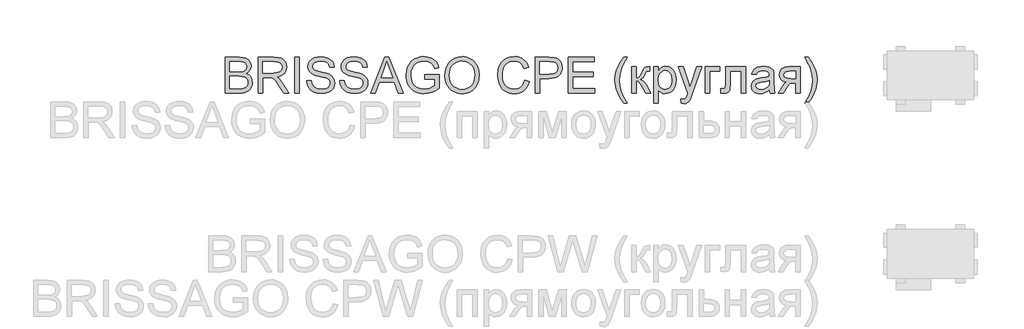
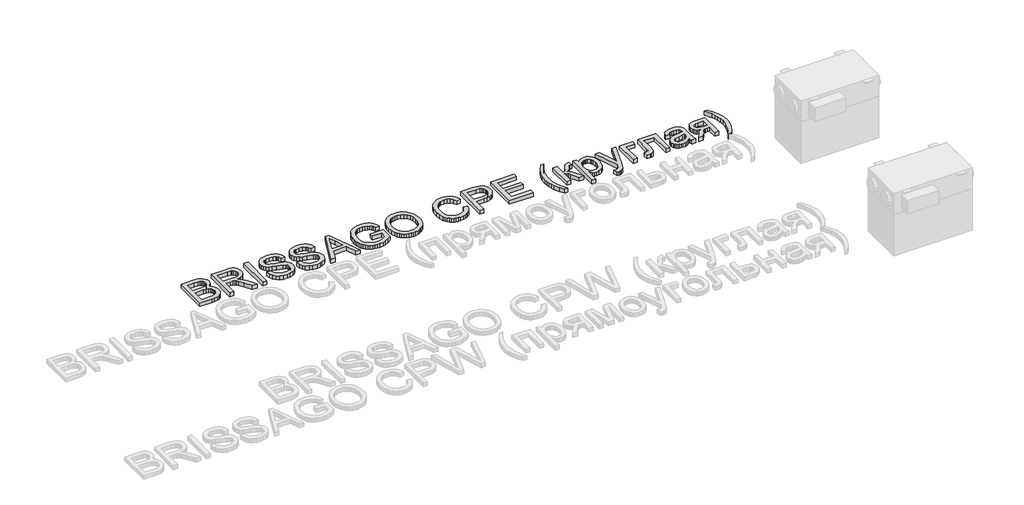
# One storey, part 20 of 28: 1 proxy.
"""IFC4 building model written with IfcOpenShell, lengths in millimetres."""

import ifcopenshell
import ifcopenshell.guid

model = None  # the IFC model being written
_history = None  # IfcOwnerHistory: only IFC2X3 demands one
_inside = {}  # id of a spatial element -> (the spatial element, [elements in it])
_under = {}  # id of a project, library or spatial element -> (it, [spatial elements below it])
_declared = {}  # id of a project -> (the project, [libraries it declares])
_typed = {}  # id of a type object -> (the type object, [elements of that type])
_made_of = {}  # id of a material, layer set ... -> (it, [elements and type objects made of it])


def new_model(schema):
    """Start an empty IFC model of exactly this schema.

    Asked for "IFC4X3", IfcOpenShell would pick the latest addendum, in which some entities
    have other attributes; the version numbers below select the first issue.
    IFC2X3 requires an IfcOwnerHistory on every rooted entity: one is made here for all.
    """
    global model, _history
    if schema == "IFC4X3":
        model = ifcopenshell.file(schema_version=(4, 3, 0, 0))
    else:
        model = ifcopenshell.file(schema=schema)
    _inside.clear()
    _under.clear()
    _declared.clear()
    _typed.clear()
    _made_of.clear()
    _history = None
    if model.schema == "IFC2X3":
        org = make("IfcOrganization", Name="unknown")
        user = make(
            "IfcPersonAndOrganization",
            ThePerson=make("IfcPerson", FamilyName="unknown"),
            TheOrganization=org,
        )
        app = make(
            "IfcApplication",
            ApplicationDeveloper=org,
            Version="unknown",
            ApplicationFullName="unknown",
            ApplicationIdentifier="unknown",
        )
        _history = make(
            "IfcOwnerHistory",
            OwningUser=user,
            OwningApplication=app,
            ChangeAction="ADDED",
            CreationDate=0,
        )
    return model


def make(cls, **values):
    """One entity of the class cls with the attributes given. An attribute that is None is left unset."""
    return model.create_entity(
        cls, **{name: value for name, value in values.items() if value is not None}
    )


def rooted(cls, **values):
    """An entity with a GlobalId (a new one), such as an element, a storey or a relation."""
    return make(cls, GlobalId=ifcopenshell.guid.new(), OwnerHistory=_history, **values)


def si_unit(unit_type, name, prefix=None):
    """IfcSIUnit, for example si_unit("LENGTHUNIT", "METRE", prefix="MILLI")."""
    return make("IfcSIUnit", UnitType=unit_type, Prefix=prefix, Name=name)


def assignment(units):
    """IfcUnitAssignment: the units of a project."""
    return None if units is None else make("IfcUnitAssignment", Units=units)


def point(xyz):
    """IfcCartesianPoint."""
    return None if xyz is None else make("IfcCartesianPoint", Coordinates=xyz)


def direction(xyz):
    """IfcDirection."""
    return None if xyz is None else make("IfcDirection", DirectionRatios=xyz)


def frame(location, z_axis=None, x_axis=None):
    """IfcAxis2Placement3D, a coordinate frame: its origin and axes. An axis left out is left unset."""
    return make(
        "IfcAxis2Placement3D",
        Location=point(location),
        Axis=direction(z_axis),
        RefDirection=direction(x_axis),
    )


def origin():
    """The frame at (0, 0, 0) with its axes left unset."""
    return frame((0.0, 0.0, 0.0))


def origin_with_axes():
    """The frame at (0, 0, 0) with the z axis (0, 0, 1) and the x axis (1, 0, 0) written out."""
    return frame((0.0, 0.0, 0.0), z_axis=(0.0, 0.0, 1.0), x_axis=(1.0, 0.0, 0.0))


def place(relative_to, where):
    """IfcLocalPlacement: puts the frame where relative to a parent placement (None: the world)."""
    return make(
        "IfcLocalPlacement", PlacementRelTo=relative_to, RelativePlacement=where
    )


def context(
    kind, dimensions, precision=None, world=None, true_north=None, identifier=None
):
    """IfcGeometricRepresentationContext, for example the 3D "Model" context."""
    return make(
        "IfcGeometricRepresentationContext",
        ContextIdentifier=identifier,
        ContextType=kind,
        CoordinateSpaceDimension=dimensions,
        Precision=precision,
        WorldCoordinateSystem=world,
        TrueNorth=true_north,
    )


def project(units=None, contexts=None):
    """IfcProject with its units and contexts."""
    return rooted(
        "IfcProject",
        Name="project",
        RepresentationContexts=contexts,
        UnitsInContext=assignment(units),
    )


def spatial(cls, under=None, at=None, **own):
    """A site, building, storey or space (cls), placed at a placement, below another one or the project."""
    s = rooted(cls, ObjectPlacement=at, **own)
    if under is not None:
        _under.setdefault(under.id(), (under, []))[1].append(s)
    return s


def polyline(points):
    """IfcPolyline through the points."""
    return make("IfcPolyline", Points=[point(p) for p in points])


def outline(outer, holes=None, kind="AREA"):
    """IfcArbitraryClosedProfileDef: a profile drawn as a closed curve; with holes, ...WithVoids."""
    if holes is None:
        return make("IfcArbitraryClosedProfileDef", ProfileType=kind, OuterCurve=outer)
    return make(
        "IfcArbitraryProfileDefWithVoids",
        ProfileType=kind,
        OuterCurve=outer,
        InnerCurves=holes,
    )


def extrude(swept, where, along, depth):
    """IfcExtrudedAreaSolid: the profile swept, set in the frame where, extruded along a direction by depth."""
    return make(
        "IfcExtrudedAreaSolid",
        SweptArea=swept,
        Position=where,
        ExtrudedDirection=direction(along),
        Depth=depth,
    )


def shape(context_of_items, identifier, shape_type, items):
    """IfcShapeRepresentation: the items that make up one representation, for example the "Body"."""
    return make(
        "IfcShapeRepresentation",
        ContextOfItems=context_of_items,
        RepresentationIdentifier=identifier,
        RepresentationType=shape_type,
        Items=items,
    )


def made_of(thing, what):
    """Note that an element or type object is made of a material, layer set ...; save() writes the relation."""
    if what is not None:
        _made_of.setdefault(what.id(), (what, []))[1].append(thing)
    return thing


def element(
    cls,
    number,
    at=None,
    inside=None,
    cuts=None,
    type_object=None,
    material=None,
    context=None,
    identifier="Body",
    shape_type=None,
    held_by="IfcProductDefinitionShape",
    body=None,
    shapes=None,
    **own,
):
    """One element of the class cls, such as IfcWall. Its Tag is "e" and its number.

    at: its placement. inside: the storey or other place that contains it. cuts: it is an
    opening in that element (IfcRelVoidsElement). A single representation is given by context,
    identifier, shape_type and body (its items); several are given by shapes. held_by: the class
    of the entity that holds the representations. save() writes the other relations.
    """
    e = rooted(cls, Tag="e%d" % number, ObjectPlacement=at, **own)
    if body is not None:
        shapes = [shape(context, identifier, shape_type, body)]
    if shapes is not None:
        e.Representation = make(held_by, Representations=shapes)
    if inside is not None:
        _inside.setdefault(inside.id(), (inside, []))[1].append(e)
    if cuts is not None:
        rooted(
            "IfcRelVoidsElement", RelatingBuildingElement=cuts, RelatedOpeningElement=e
        )
    if type_object is not None:
        _typed.setdefault(type_object.id(), (type_object, []))[1].append(e)
    return made_of(e, material)


def aggregate(whole, parts):
    """IfcRelAggregates: a whole, such as a stair, and the parts it consists of."""
    return rooted("IfcRelAggregates", RelatingObject=whole, RelatedObjects=parts)


def save(model, path):
    """Write the relations noted so far, then the file.

    IfcRelAggregates (storeys below a building ...), IfcRelContainedInSpatialStructure (elements
    in a storey), IfcRelDefinesByType, IfcRelAssociatesMaterial and IfcRelDeclares: one each for
    every whole, place, type object, material and project.
    """
    for whole, parts in _under.values():
        aggregate(whole, parts)
    for where, things in _inside.values():
        rooted(
            "IfcRelContainedInSpatialStructure",
            RelatedElements=things,
            RelatingStructure=where,
        )
    for kind, things in _typed.values():
        rooted("IfcRelDefinesByType", RelatedObjects=things, RelatingType=kind)
    for what, things in _made_of.values():
        rooted("IfcRelAssociatesMaterial", RelatedObjects=things, RelatingMaterial=what)
    for by, libraries in _declared.values():
        rooted("IfcRelDeclares", RelatingContext=by, RelatedDefinitions=libraries)
    model.write(path)


model = new_model("IFC4")

# Units and contexts
model_context = context("Model", 3, world=origin())
ifc_project = project(units=[si_unit("LENGTHUNIT", "METRE", prefix="MILLI")], contexts=[model_context])

# Site, building, storey
site = spatial("IfcSite", under=ifc_project)
building = spatial("IfcBuilding", under=site)
storey = spatial("IfcBuildingStorey", under=building, Name="Уровень 1", Elevation=0.0)

# Proxy
placement = place(None, origin())
element("IfcBuildingElementProxy", 1, Name="400 мм Arial", ObjectType="400 мм Arial", at=placement, inside=storey, context=model_context, shape_type="SweptSolid", body=[
    extrude(outline(polyline([(-28564.9960221, 10271.3067858), (-28564.9960221, 10673.1320263), (-28411.6628065, 10673.1320263), (-28369.4912671, 10670.1767077), (-28336.5658286, 10661.3107516), (-28311.3291237, 10646.3134289), (-28292.2237854, 10624.9640104), (-28280.1940442, 10599.8499329), (-28276.1841304, 10573.558633), (-28279.556382, 10549.3642604), (-28289.6731369, 10526.6168904), (-28306.6079714, 10506.7144745), (-28330.434462, 10491.0549642), (-28301.9726583, 10476.1925316), (-28280.9420709, 10453.5800516), (-28267.9558365, 10424.7135777), (-28263.6270917, 10391.0891634), (-28266.5824103, 10363.0688181), (-28275.4483664, 10337.0840865), (-28288.6798555, 10314.9866413), (-28304.7317732, 10298.6281553), (-28324.3889345, 10286.782355), (-28348.4361543, 10278.2229673), (-28377.6582474, 10273.0358311), (-28412.8400289, 10271.3067858), (-28564.9960221, 10271.3067858)]), holes=[polyline([(-28514.767867, 10509.8905224), (-28423.0426229, 10509.8905224), (-28369.4790044, 10514.2070044), (-28350.7292854, 10521.6504835), (-28337.2525416, 10532.7973079), (-28329.1223495, 10547.4757995), (-28326.4122855, 10565.51428), (-28328.9384085, 10583.025463), (-28336.5167776, 10598.2803031), (-28348.8040363, 10610.187417), (-28365.4568279, 10617.6554215), (-28391.0123639, 10621.5917588), (-28430.0078553, 10622.9038713), (-28514.767867, 10622.9038713), (-28514.767867, 10509.8905224)]), polyline([(-28514.767867, 10321.5349408), (-28411.7609084, 10321.5349408), (-28374.4821995, 10323.4969781), (-28342.9424498, 10334.4353361), (-28331.3664297, 10343.8653779), (-28322.0467525, 10356.7535105), (-28315.9031232, 10372.5233854), (-28313.8552467, 10390.5986541), (-28316.2587424, 10411.5924532), (-28323.4692295, 10429.6431965), (-28336.0630565, 10443.7576024), (-28354.6165718, 10452.9423895), (-28380.895609, 10457.9823728), (-28416.6660016, 10459.6623673), (-28514.767867, 10459.6623673), (-28514.767867, 10321.5349408)])]), origin_with_axes(), (0.0, 0.0, 1.0), 50.0),
    extrude(outline(polyline([(-28194.5633784, 10271.3067858), (-28194.5633784, 10673.1320263), (-28021.413586, 10673.1320263), (-27974.8765136, 10670.4219623), (-27941.0191074, 10662.2917702), (-27916.2729118, 10647.2821848), (-27897.0694717, 10623.9339409), (-27884.7454248, 10594.9816278), (-27880.6374092, 10563.1598353), (-27882.3388634, 10542.5216553), (-27887.4432261, 10523.5757326), (-27895.9504973, 10506.322067), (-27907.8606769, 10490.7606586), (-27923.3270491, 10477.3881481), (-27942.5028981, 10466.7011761), (-27965.3882238, 10458.6997427), (-27991.9830264, 10453.3838479), (-27963.4353836, 10431.8995394), (-27922.7231095, 10380.1998563), (-27855.7195354, 10271.3067858), (-27914.0901453, 10271.3067858), (-27966.3784396, 10354.5952695), (-28004.1476577, 10409.7285178), (-28018.1884872, 10425.804961), (-28030.6842123, 10435.7745631), (-28054.5720165, 10445.3394949), (-28083.7082705, 10447.1053285), (-28144.3352234, 10447.1053285), (-28144.3352234, 10271.3067858), (-28194.5633784, 10271.3067858)]), holes=[polyline([(-28144.3352234, 10497.3334836), (-28031.9104856, 10497.3334836), (-27999.6227092, 10499.1115799), (-27974.5699453, 10504.4458688), (-27955.7098617, 10513.6919696), (-27942.000126, 10527.2055016), (-27933.6492047, 10543.5517249), (-27930.8655643, 10561.2958998), (-27936.1753277, 10585.7968407), (-27952.1046181, 10605.5398411), (-27964.2661838, 10613.1366043), (-27979.5118268, 10618.5628637), (-28019.255345, 10622.9038713), (-28144.3352234, 10622.9038713), (-28144.3352234, 10497.3334836)])]), origin_with_axes(), (0.0, 0.0, 1.0), 50.0),
    extrude(outline(polyline([(-27786.4596184, 10271.3067858), (-27786.4596184, 10673.1320263), (-27736.2314634, 10673.1320263), (-27736.2314634, 10271.3067858), (-27786.4596184, 10271.3067858)])), origin_with_axes(), (0.0, 0.0, 1.0), 50.0),
    extrude(outline(polyline([(-27654.6107114, 10409.4342122), (-27604.3825563, 10409.4342122), (-27598.6190717, 10381.5610197), (-27588.1957485, 10359.1570062), (-27571.9353643, 10341.3760431), (-27548.6606968, 10327.3720018), (-27520.2111558, 10318.2853165), (-27488.4261514, 10315.2564214), (-27460.4425943, 10317.5495525), (-27435.9416534, 10324.4289459), (-27416.0882884, 10335.3182529), (-27402.047459, 10349.6411253), (-27393.6965377, 10366.0854504), (-27390.9128972, 10383.339116), (-27392.9975619, 10400.1513232), (-27399.2515558, 10414.682662), (-27411.9557474, 10427.0802852), (-27433.3910049, 10437.4913457), (-27506.5259456, 10456.6702604), (-27554.534546, 10469.3621892), (-27585.2526925, 10481.4409814), (-27610.2564055, 10498.3390277), (-27627.9760549, 10518.8177921), (-27638.5342682, 10542.4358162), (-27642.0536726, 10568.7516416), (-27637.7004023, 10598.1699385), (-27624.6405915, 10625.6016726), (-27603.2175966, 10648.8518147), (-27573.7747743, 10665.7253355), (-27538.4335773, 10675.9892432), (-27499.3154585, 10679.4105457), (-27456.9354526, 10675.8298276), (-27419.8529475, 10665.0876734), (-27389.3923183, 10647.4048122), (-27366.8779402, 10623.0019731), (-27352.6286443, 10593.3997353), (-27346.9632615, 10560.1186774), (-27397.1914166, 10560.1186774), (-27406.412992, 10590.0887973), (-27414.776176, 10601.9468603), (-27425.6409576, 10611.7202586), (-27455.6846538, 10624.8168576), (-27497.3534212, 10629.1823907), (-27540.0032071, 10624.8659086), (-27556.3065109, 10619.470306), (-27569.2620885, 10611.9164624), (-27586.1846603, 10592.860175), (-27591.8255175, 10570.2231696), (-27587.8278665, 10550.9216276), (-27575.8349135, 10535.3970074), (-27547.4834744, 10521.5155934), (-27493.821754, 10507.3398739), (-27438.443251, 10493.8753928), (-27404.941464, 10482.1276945), (-27376.307982, 10463.905273), (-27356.3319897, 10441.4154203), (-27344.596554, 10414.9033912), (-27340.6847422, 10384.6144403), (-27345.1851652, 10353.651039), (-27358.6864345, 10324.5270477), (-27380.6367268, 10299.4620211), (-27410.4842194, 10280.6755139), (-27446.3772394, 10268.9400782), (-27486.4641141, 10265.0282664), (-27535.6744623, 10269.2466466), (-27576.17827, 10281.9017872), (-27608.441521, 10303.0427392), (-27632.9301991, 10332.7185535), (-27648.6510231, 10368.8690909), (-27654.6107114, 10409.4342122)])), origin_with_axes(), (0.0, 0.0, 1.0), 50.0),
    extrude(outline(polyline([(-27284.1780677, 10409.4342122), (-27233.9499126, 10409.4342122), (-27228.186428, 10381.5610197), (-27217.7631048, 10359.1570062), (-27201.5027206, 10341.3760431), (-27178.2280531, 10327.3720018), (-27149.7785121, 10318.2853165), (-27117.9935077, 10315.2564214), (-27090.0099506, 10317.5495525), (-27065.5090098, 10324.4289459), (-27045.6556448, 10335.3182529), (-27031.6148153, 10349.6411253), (-27023.263894, 10366.0854504), (-27020.4802536, 10383.339116), (-27022.5649182, 10400.1513232), (-27028.8189121, 10414.682662), (-27041.5231037, 10427.0802852), (-27062.9583613, 10437.4913457), (-27136.0933019, 10456.6702604), (-27184.1019023, 10469.3621892), (-27214.8200489, 10481.4409814), (-27239.8237618, 10498.3390277), (-27257.5434112, 10518.8177921), (-27268.1016245, 10542.4358162), (-27271.6210289, 10568.7516416), (-27267.2677587, 10598.1699385), (-27254.2079478, 10625.6016726), (-27232.784953, 10648.8518147), (-27203.3421306, 10665.7253355), (-27168.0009336, 10675.9892432), (-27128.8828148, 10679.4105457), (-27086.502809, 10675.8298276), (-27049.4203038, 10665.0876734), (-27018.9596746, 10647.4048122), (-26996.4452965, 10623.0019731), (-26982.1960006, 10593.3997353), (-26976.5306179, 10560.1186774), (-27026.7587729, 10560.1186774), (-27035.9803483, 10590.0887973), (-27044.3435323, 10601.9468603), (-27055.2083139, 10611.7202586), (-27085.2520102, 10624.8168576), (-27126.9207775, 10629.1823907), (-27169.5705635, 10624.8659086), (-27185.8738672, 10619.470306), (-27198.8294448, 10611.9164624), (-27215.7520166, 10592.860175), (-27221.3928739, 10570.2231696), (-27217.3952228, 10550.9216276), (-27205.4022698, 10535.3970074), (-27177.0508307, 10521.5155934), (-27123.3891103, 10507.3398739), (-27068.0106073, 10493.8753928), (-27034.5088203, 10482.1276945), (-27005.8753383, 10463.905273), (-26985.899346, 10441.4154203), (-26974.1639104, 10414.9033912), (-26970.2520985, 10384.6144403), (-26974.7525216, 10353.651039), (-26988.2537908, 10324.5270477), (-27010.2040832, 10299.4620211), (-27040.0515757, 10280.6755139), (-27075.9445957, 10268.9400782), (-27116.0314704, 10265.0282664), (-27165.2418187, 10269.2466466), (-27205.7456263, 10281.9017872), (-27238.0088773, 10303.0427392), (-27262.4975554, 10332.7185535), (-27278.2183794, 10368.8690909), (-27284.1780677, 10409.4342122)])), origin_with_axes(), (0.0, 0.0, 1.0), 50.0),
    extrude(outline(polyline([(-26941.7044557, 10271.3067858), (-26781.3079058, 10673.1320263), (-26738.5354924, 10673.1320263), (-26578.1389426, 10271.3067858), (-26631.2120517, 10271.3067858), (-26677.2218266, 10396.8771734), (-26842.7196735, 10396.8771734), (-26888.6313465, 10271.3067858), (-26941.7044557, 10271.3067858)]), holes=[polyline([(-26824.2765228, 10447.1053285), (-26695.5668754, 10447.1053285), (-26731.7664637, 10545.893907), (-26759.9216991, 10622.9038713), (-26784.9376748, 10554.5268711), (-26824.2765228, 10447.1053285)])]), origin_with_axes(), (0.0, 0.0, 1.0), 50.0),
    extrude(outline(polyline([(-26336.1216407, 10428.2697704), (-26336.1216407, 10478.4979254), (-26172.8801367, 10478.4979254), (-26172.8801367, 10328.3039695), (-26212.5500785, 10300.7128199), (-26253.4708191, 10280.9207686), (-26295.5442566, 10269.0013919), (-26338.6722892, 10265.0282664), (-26367.5234346, 10266.6070933), (-26395.0195481, 10271.343574), (-26421.1606295, 10279.2377084), (-26445.946679, 10290.2894967), (-26468.577553, 10304.3333919), (-26488.2531084, 10321.203847), (-26504.9733451, 10340.9008622), (-26518.7382631, 10363.4244373), (-26529.4896144, 10388.0541369), (-26537.169151, 10414.0695253), (-26541.776873, 10441.4706026), (-26543.3127803, 10470.2573687), (-26537.1936765, 10526.8498823), (-26529.5447967, 10553.6654141), (-26518.8363649, 10579.4937958), (-26505.2584536, 10603.2007247), (-26489.0011351, 10623.651898), (-26470.0644094, 10640.8473156), (-26448.4482765, 10654.7869775), (-26424.621786, 10665.5597886), (-26399.0539873, 10673.2546537), (-26371.7448805, 10677.8715727), (-26342.6944656, 10679.4105457), (-26301.3200039, 10675.8420904), (-26264.1148715, 10665.1367243), (-26232.7835882, 10648.0669997), (-26209.0306741, 10625.4054688), (-26191.4581774, 10596.0607484), (-26178.6681467, 10558.941455), (-26224.9722272, 10545.893907), (-26235.3097112, 10572.3691479), (-26247.8790127, 10592.3451402), (-26264.5072789, 10607.4037765), (-26287.021657, 10619.1269495), (-26313.86478, 10626.6685304), (-26343.4792806, 10629.1823907), (-26378.1460272, 10626.4723266), (-26407.7850533, 10618.3421345), (-26432.2859942, 10605.8096212), (-26451.5384853, 10589.8925936), (-26466.3150788, 10571.4126547), (-26477.3883268, 10551.1914077), (-26489.1605507, 10513.2750367), (-26493.0846253, 10472.3175079), (-26488.363473, 10424.2843821), (-26474.2000162, 10384.7615931), (-26451.0234505, 10354.0311837), (-26419.2629716, 10332.375197), (-26382.0946273, 10319.5361153), (-26342.6944656, 10315.2564214), (-26307.9050916, 10318.4815203), (-26273.9741089, 10328.1568167), (-26244.5067611, 10341.4864077), (-26223.1082917, 10355.67439), (-26223.1082917, 10428.2697704), (-26336.1216407, 10428.2697704)])), origin_with_axes(), (0.0, 0.0, 1.0), 50.0),
    extrude(outline(polyline([(-26110.0949428, 10466.9219053), (-26106.7472167, 10514.0537203), (-26096.7040382, 10555.7776699), (-26079.9654074, 10592.0937542), (-26056.5313243, 10623.0019731), (-26027.8058719, 10647.6807237), (-25995.193133, 10665.3084026), (-25958.6931077, 10675.8850099), (-25918.305796, 10679.4105457), (-25891.2726007, 10677.7550768), (-25865.6005688, 10672.7886698), (-25841.2897003, 10664.5113249), (-25818.3399952, 10652.9230421), (-25797.3952469, 10638.3733092), (-25779.099249, 10621.2116141), (-25763.4520015, 10601.4379569), (-25750.4535043, 10579.0523374), (-25740.2386476, 10554.5636593), (-25732.9423214, 10528.4808258), (-25727.1052604, 10471.532693), (-25728.6411677, 10441.8752728), (-25733.2488897, 10413.8242707), (-25740.9284263, 10387.3796866), (-25751.6797777, 10362.5415206), (-25765.2484919, 10339.9658288), (-25781.3801174, 10320.3086675), (-25800.0746541, 10303.5700367), (-25821.3321021, 10289.7499364), (-25844.3155297, 10278.9342058), (-25868.1880055, 10271.2086839), (-25892.9495295, 10266.5733707), (-25918.6001016, 10265.0282664), (-25946.1054121, 10266.735852), (-25972.1146692, 10271.8586087), (-25996.6278728, 10280.3965367), (-26019.6450229, 10292.3496359), (-26040.5652457, 10307.254988), (-26058.7876672, 10324.6496751), (-26074.3122874, 10344.5336969), (-26087.1391063, 10366.9070536), (-26104.3559837, 10415.5287906), (-26110.0949428, 10466.9219053)]), holes=[polyline([(-26059.8667877, 10466.431396), (-26057.3559931, 10433.1319441), (-26049.8236093, 10403.5726258), (-26037.2696362, 10377.7534411), (-26019.6940739, 10355.67439), (-25998.329327, 10337.9915287), (-25974.4078003, 10325.3609136), (-25947.9294937, 10317.7825445), (-25918.8944072, 10315.2564214), (-25889.36268, 10317.8070699), (-25862.5716737, 10325.4590154), (-25838.5213883, 10338.2122579), (-25817.2118237, 10356.0667974), (-25799.7650201, 10378.6118324), (-25787.3030175, 10405.4365612), (-25779.825816, 10436.5409839), (-25777.3334155, 10471.9251005), (-25781.6008466, 10516.3897709), (-25794.40314, 10554.8211767), (-25815.409202, 10586.2505618), (-25844.2879386, 10609.7091704), (-25879.1263635, 10624.3140856), (-25918.0114904, 10629.1823907), (-25946.0379671, 10626.8371429), (-25972.0410928, 10619.8013998), (-25996.0208675, 10608.0751612), (-26017.9772912, 10591.6584272), (-26036.303946, 10569.7602514), (-26049.3944136, 10541.5896876), (-26057.2486942, 10507.1467358), (-26059.8667877, 10466.431396)])]), origin_with_axes(), (0.0, 0.0, 1.0), 50.0),
    extrude(outline(polyline([(-25218.5451902, 10414.1431017), (-25168.3170352, 10401.1936555), (-25178.2559804, 10369.9574084), (-25191.4936009, 10342.6636301), (-25208.0298965, 10319.3123204), (-25227.8648675, 10299.9034795), (-25250.5509238, 10284.6455738), (-25275.6404759, 10273.7470697), (-25303.1335237, 10267.2079672), (-25333.0300671, 10265.0282664), (-25363.6593089, 10266.677604), (-25391.2903124, 10271.6256168), (-25415.9230777, 10279.8723049), (-25437.5576047, 10291.4176682), (-25456.4912647, 10306.0900284), (-25473.021429, 10323.7177073), (-25487.1480977, 10344.300705), (-25498.8712706, 10367.8390213), (-25514.6534082, 10419.7103826), (-25519.9141207, 10475.2605639), (-25513.9666951, 10533.851903), (-25506.5324131, 10560.1493343), (-25496.1244183, 10584.44794), (-25482.9757027, 10606.3461158), (-25467.3192581, 10625.442257), (-25449.1550846, 10641.7363637), (-25428.4831822, 10655.2284359), (-25406.0055923, 10665.808109), (-25382.4243564, 10673.3650183), (-25331.9509466, 10679.4105457), (-25303.2224285, 10677.4546398), (-25276.8790119, 10671.586922), (-25252.920697, 10661.8073923), (-25231.3474837, 10648.1160507), (-25212.5149912, 10630.8746478), (-25196.7788389, 10610.4449344), (-25184.1390266, 10586.8269103), (-25174.5955546, 10560.0205756), (-25224.8237096, 10548.052148), (-25242.2367907, 10584.680932), (-25266.0264931, 10609.8072722), (-25296.4871223, 10624.3386111), (-25333.9129839, 10629.1823907), (-25377.0532792, 10623.8113135), (-25395.7355532, 10617.0974671), (-25412.4925781, 10607.6980821), (-25439.3847519, 10582.5349537), (-25456.8836722, 10550.0141853), (-25466.4853923, 10513.2505112), (-25469.6859656, 10475.3586657), (-25465.8967811, 10428.9564834), (-25454.5292274, 10388.8328205), (-25435.154109, 10356.5205186), (-25407.3422302, 10333.5524193), (-25373.9998587, 10319.8304209), (-25338.0332623, 10315.2564214), (-25316.1964002, 10316.8137886), (-25296.1069776, 10321.4858899), (-25277.7649944, 10329.2727255), (-25261.1704508, 10340.1742952), (-25246.715754, 10354.1415483), (-25234.7933117, 10371.1254338), (-25225.4031238, 10391.1259516), (-25218.5451902, 10414.1431017)])), origin_with_axes(), (0.0, 0.0, 1.0), 50.0),
    extrude(outline(polyline([(-25099.2533219, 10271.3067858), (-25099.2533219, 10673.1320263), (-24950.3346903, 10673.1320263), (-24890.2963487, 10669.3060536), (-24863.5268022, 10662.1568802), (-24841.4906707, 10650.5195464), (-24823.7464958, 10633.8667547), (-24809.8528191, 10611.6712077), (-24800.8764984, 10585.4902724), (-24797.8843915, 10556.8813159), (-24799.9046768, 10532.2148281), (-24805.9655327, 10509.5226404), (-24816.0669591, 10488.8047527), (-24830.2089561, 10470.061165), (-24849.6239284, 10454.5242821), (-24875.5442807, 10443.4265086), (-24907.9700129, 10436.7678444), (-24946.901125, 10434.5482897), (-25049.0251669, 10434.5482897), (-25049.0251669, 10271.3067858), (-25099.2533219, 10271.3067858)]), holes=[polyline([(-25049.0251669, 10484.7764448), (-24943.958069, 10484.7764448), (-24899.4198222, 10489.3872325), (-24882.8160814, 10495.1507171), (-24869.9892625, 10503.2195955), (-24860.4181993, 10513.3792699), (-24853.5817256, 10525.4151426), (-24848.1125466, 10555.1154823), (-24851.3376454, 10577.6789113), (-24861.0129419, 10596.7106732), (-24875.9366881, 10611.0335456), (-24894.9071364, 10619.470306), (-24945.1352914, 10622.9038713), (-25049.0251669, 10622.9038713), (-25049.0251669, 10484.7764448)])]), origin_with_axes(), (0.0, 0.0, 1.0), 50.0),
    extrude(outline(polyline([(-24728.8206783, 10271.3067858), (-24728.8206783, 10673.1320263), (-24440.0087866, 10673.1320263), (-24440.0087866, 10622.9038713), (-24678.5925232, 10622.9038713), (-24678.5925232, 10503.612003), (-24452.5658254, 10503.612003), (-24452.5658254, 10453.3838479), (-24678.5925232, 10453.3838479), (-24678.5925232, 10321.5349408), (-24433.7302672, 10321.5349408), (-24433.7302672, 10271.3067858), (-24728.8206783, 10271.3067858)])), origin_with_axes(), (0.0, 0.0, 1.0), 50.0),
    extrude(outline(polyline([(-24107.2472592, 10158.2934368), (-24146.1691743, 10212.9116504), (-24178.5673153, 10276.1137772), (-24191.3144265, 10310.1673872), (-24200.4195059, 10344.8341339), (-24205.8825535, 10380.1140172), (-24207.7035694, 10416.0070372), (-24202.2589158, 10478.424349), (-24185.9249552, 10538.1438596), (-24153.5022887, 10605.7850958), (-24107.2472592, 10673.1320263), (-24069.5761429, 10673.1320263), (-24116.5669364, 10593.5714135), (-24132.6065914, 10555.8021954), (-24144.8202737, 10516.4633473), (-24154.3116291, 10466.2106668), (-24157.4754143, 10415.7127316), (-24151.9817098, 10351.3211197), (-24135.5005964, 10286.9540333), (-24108.0320741, 10222.6114723), (-24069.5761429, 10158.2934368), (-24107.2472592, 10158.2934368)])), origin_with_axes(), (0.0, 0.0, 1.0), 50.0),
    extrude(outline(polyline([(-24019.3479878, 10566.3971968), (-23969.1198328, 10566.3971968), (-23969.1198328, 10440.8268091), (-23948.6901193, 10443.083152), (-23935.4708929, 10449.8521807), (-23923.7722455, 10467.5105165), (-23907.9042688, 10502.4347806), (-23884.9974832, 10547.8068933), (-23875.5551787, 10556.967155), (-23864.7884989, 10562.5712241), (-23828.0493503, 10566.3971968), (-23818.4353675, 10566.3971968), (-23818.4353675, 10515.8747361), (-23831.973425, 10516.1690417), (-23847.6697234, 10514.8446666), (-23856.4988913, 10510.871541), (-23873.7648196, 10477.8112124), (-23884.3720838, 10455.7750809), (-23894.0228548, 10442.0530824), (-23905.7092395, 10432.8928208), (-23922.4233448, 10424.5418995), (-23906.5063172, 10417.4724338), (-23890.7364423, 10404.9951028), (-23875.1137203, 10387.1099065), (-23859.638151, 10363.8168448), (-23805.8783288, 10271.3067858), (-23862.9736144, 10271.3067858), (-23915.6543161, 10361.8548075), (-23929.8790866, 10385.9510782), (-23942.1418198, 10400.1635859), (-23954.5271803, 10407.1165556), (-23969.1198328, 10409.4342122), (-23969.1198328, 10271.3067858), (-24019.3479878, 10271.3067858), (-24019.3479878, 10566.3971968)])), origin_with_axes(), (0.0, 0.0, 1.0), 50.0),
    extrude(outline(polyline([(-23774.4857318, 10158.2934368), (-23774.4857318, 10566.3971968), (-23724.2575768, 10566.3971968), (-23724.2575768, 10517.1500604), (-23707.8745653, 10541.4425348), (-23689.5295164, 10558.7943022), (-23668.1433098, 10569.2053627), (-23642.6368248, 10572.6757162), (-23608.6690539, 10567.8196739), (-23578.9687141, 10553.2515469), (-23554.7866043, 10529.854252), (-23537.3735232, 10498.510706), (-23526.8520982, 10461.5017773), (-23523.3449565, 10421.1083342), (-23527.3058193, 10378.1519799), (-23539.1884077, 10339.7328369), (-23558.6125771, 10307.8006797), (-23585.1981826, 10284.3052829), (-23616.1615839, 10269.8475205), (-23648.7191404, 10265.0282664), (-23671.809867, 10268.2533652), (-23692.4235215, 10277.9286617), (-23710.0695945, 10292.5335769), (-23724.2575768, 10310.5475319), (-23724.2575768, 10158.2934368), (-23774.4857318, 10158.2934368)]), holes=[polyline([(-23724.2575768, 10416.4975465), (-23718.825186, 10371.4687903), (-23712.0346975, 10354.0311837), (-23702.5280136, 10339.9780915), (-23678.4807938, 10321.436839), (-23664.7189415, 10316.8015258), (-23649.7982609, 10315.2564214), (-23634.6629825, 10316.8567081), (-23620.6497442, 10321.6575682), (-23607.7585459, 10329.6590016), (-23595.9893878, 10340.8610083), (-23586.1822669, 10355.4230039), (-23579.1771806, 10373.504404), (-23574.9741288, 10395.1052085), (-23573.5731115, 10420.2254174), (-23579.0422905, 10465.0089189), (-23585.8787643, 10482.5814156), (-23595.4498275, 10496.9410761), (-23619.4602591, 10516.0709399), (-23633.0657615, 10520.8534058), (-23647.7381218, 10522.4475611), (-23662.3644968, 10520.7522383), (-23676.1263491, 10515.6662697), (-23701.0564856, 10495.3223953), (-23711.206963, 10480.2239051), (-23718.457304, 10462.0536003), (-23722.8075086, 10440.8114807), (-23724.2575768, 10416.4975465)])]), origin_with_axes(), (0.0, 0.0, 1.0), 50.0),
    extrude(outline(polyline([(-23466.838282, 10158.2934368), (-23473.1168014, 10206.6576565), (-23447.6103164, 10202.2430725), (-23434.1948863, 10203.6287614), (-23423.7715631, 10207.7858279), (-23409.1543852, 10223.2368717), (-23395.420124, 10260.221275), (-23391.4960494, 10272.3859063), (-23498.2308789, 10566.3971968), (-23445.2558716, 10566.3971968), (-23388.6510953, 10402.5670816), (-23368.9326204, 10337.0350356), (-23349.2141454, 10394.9151361), (-23291.0397392, 10566.3971968), (-23238.4571394, 10566.3971968), (-23341.1697925, 10264.2434514), (-23367.8534998, 10198.7114054), (-23381.5141846, 10177.7911826), (-23396.9897539, 10163.296632), (-23414.9669207, 10154.8353461), (-23436.1323981, 10152.0149174), (-23466.838282, 10158.2934368)])), origin_with_axes(), (0.0, 0.0, 1.0), 50.0),
    extrude(outline(polyline([(-23196.8619485, 10566.3971968), (-23033.6204445, 10566.3971968), (-23033.6204445, 10516.1690417), (-23146.6337934, 10516.1690417), (-23146.6337934, 10271.3067858), (-23196.8619485, 10271.3067858), (-23196.8619485, 10566.3971968)])), origin_with_axes(), (0.0, 0.0, 1.0), 50.0),
    extrude(outline(polyline([(-22970.8352506, 10566.3971968), (-22744.8085528, 10566.3971968), (-22744.8085528, 10271.6010913), (-22795.0367079, 10271.6010913), (-22795.0367079, 10516.1690417), (-22920.6070956, 10516.1690417), (-22920.6070956, 10375.3928649), (-22923.9916099, 10310.44943), (-22930.331443, 10295.746413), (-22942.5819134, 10283.0299587), (-22961.1722169, 10274.237579), (-22986.5315491, 10271.3067858), (-23027.3419251, 10273.8574343), (-23027.3419251, 10321.5349408), (-23004.8765979, 10321.5349408), (-22982.1660161, 10324.6251496), (-22973.0915936, 10334.4353361), (-22970.8352506, 10378.237819), (-22970.8352506, 10566.3971968)])), origin_with_axes(), (0.0, 0.0, 1.0), 50.0),
    extrude(outline(polyline([(-22481.1107387, 10308.9779021), (-22505.1089075, 10288.4010358), (-22529.8183148, 10274.9365548), (-22555.8030464, 10267.5053385), (-22583.627188, 10265.0282664), (-22605.9913476, 10266.5181884), (-22625.6025236, 10270.9879547), (-22642.4607161, 10278.4375651), (-22656.5659249, 10288.8670197), (-22667.7035523, 10301.6141308), (-22675.6590005, 10316.0167109), (-22680.4322693, 10332.07476), (-22682.023359, 10349.7882781), (-22679.6198633, 10370.610399), (-22672.4093762, 10389.5195335), (-22661.2870772, 10405.7063413), (-22647.1481458, 10418.361482), (-22630.5321424, 10427.9264138), (-22611.9786271, 10434.8425953), (-22568.5195007, 10442.396439), (-22517.1631742, 10450.3426901), (-22481.4050443, 10459.6623673), (-22481.1107387, 10470.8459799), (-22484.5688294, 10493.2622562), (-22494.9431017, 10507.928485), (-22518.1441928, 10518.8177921), (-22550.4687575, 10522.4475611), (-22580.3898264, 10520.0318027), (-22601.2855238, 10512.7845274), (-22615.5348197, 10499.38136), (-22625.5166845, 10478.4979254), (-22675.7448396, 10484.7764448), (-22667.0260363, 10512.2449671), (-22654.0152764, 10533.8273775), (-22635.4985493, 10550.3330164), (-22610.2618444, 10562.5712241), (-22579.396545, 10570.1495932), (-22543.9940344, 10572.6757162), (-22510.0385262, 10570.4438988), (-22483.1218269, 10563.7484465), (-22462.8270035, 10553.6807425), (-22448.7371231, 10541.3321702), (-22439.3929204, 10526.0650674), (-22433.3351302, 10507.241772), (-22430.8825836, 10463.2921363), (-22430.8825836, 10400.8012481), (-22428.3319351, 10313.5396388), (-22418.3255448, 10271.3067858), (-22468.5536999, 10271.3067858), (-22476.5980529, 10288.7689178), (-22481.1107387, 10308.9779021)]), holes=[polyline([(-22481.1107387, 10409.4342122), (-22514.8577804, 10401.0710282), (-22562.1428795, 10394.0322193), (-22605.3567512, 10385.8897645), (-22616.6016775, 10380.3224837), (-22624.9280733, 10372.6460127), (-22630.0784212, 10363.4489628), (-22631.7952039, 10353.3199452), (-22628.0550703, 10338.3839362), (-22616.8346694, 10326.1457285), (-22598.379256, 10317.9787482), (-22572.9340847, 10315.2564214), (-22545.9560717, 10318.2607911), (-22522.1173184, 10327.2739), (-22502.7912509, 10340.55444), (-22489.3512954, 10356.361103), (-22483.391607, 10372.6460127), (-22481.4050443, 10395.2094417), (-22481.1107387, 10409.4342122)])]), origin_with_axes(), (0.0, 0.0, 1.0), 50.0),
    extrude(outline(polyline([(-22135.7921725, 10566.3971968), (-22135.7921725, 10271.3067858), (-22186.0203276, 10271.3067858), (-22186.0203276, 10384.3201347), (-22213.390748, 10384.3201347), (-22235.2184131, 10382.7259794), (-22250.6694569, 10377.9435134), (-22265.556415, 10364.037574), (-22285.6918228, 10335.0729982), (-22325.7173839, 10271.3067858), (-22383.7936882, 10271.3067858), (-22333.3693294, 10351.9465191), (-22311.100206, 10380.8865694), (-22290.5969161, 10393.7379137), (-22324.932569, 10404.2593388), (-22338.2744227, 10413.0701126), (-22349.0656279, 10424.2475939), (-22363.3394493, 10450.8331994), (-22368.0973897, 10481.1466758), (-22366.4725776, 10499.2342072), (-22361.5981412, 10515.5313796), (-22353.4740804, 10530.038193), (-22342.1003954, 10542.7546473), (-22327.6487644, 10553.0982627), (-22310.2908656, 10560.4865594), (-22290.026699, 10564.9195375), (-22266.8562647, 10566.3971968), (-22135.7921725, 10566.3971968)]), holes=[polyline([(-22186.0203276, 10516.1690417), (-22252.2390867, 10516.1690417), (-22286.4398496, 10513.262774), (-22305.8517562, 10504.5439707), (-22314.864865, 10491.9256183), (-22317.8692347, 10477.3207031), (-22313.442388, 10458.1785766), (-22300.161848, 10444.8980365), (-22275.6241189, 10437.1357264), (-22237.4257051, 10434.5482897), (-22186.0203276, 10434.5482897), (-22186.0203276, 10516.1690417)])]), origin_with_axes(), (0.0, 0.0, 1.0), 50.0),
    extrude(outline(polyline([(-22047.8929011, 10158.2934368), (-22085.5640175, 10158.2934368), (-22047.1080862, 10222.6114723), (-22019.6395639, 10286.9540333), (-22003.1584505, 10351.3211197), (-21997.6647461, 10415.7127316), (-22000.8285312, 10465.8427848), (-22010.3198867, 10515.5804305), (-22022.3128397, 10554.992855), (-22038.2789183, 10592.7865986), (-22085.5640175, 10673.1320263), (-22047.8929011, 10673.1320263), (-22001.6378716, 10605.7850958), (-21969.2152051, 10538.1438596), (-21952.8812445, 10478.424349), (-21947.436591, 10416.0070372), (-21949.2668039, 10380.1140172), (-21954.7574427, 10344.8341339), (-21963.9085073, 10310.1673872), (-21976.7199978, 10276.1137772), (-22009.1549271, 10212.9116504), (-22047.8929011, 10158.2934368)])), origin_with_axes(), (0.0, 0.0, 1.0), 50.0),
])

save(model, "model.ifc")
